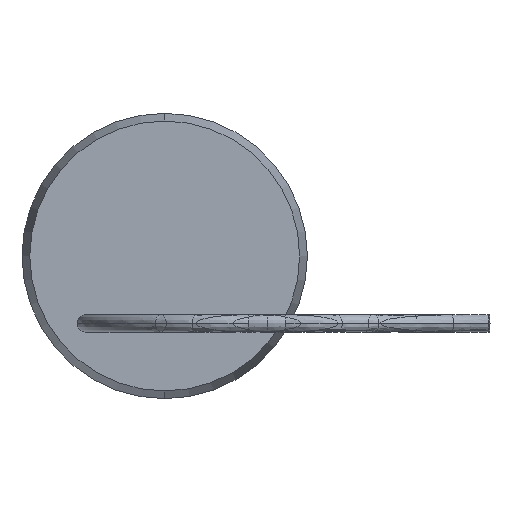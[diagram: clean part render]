
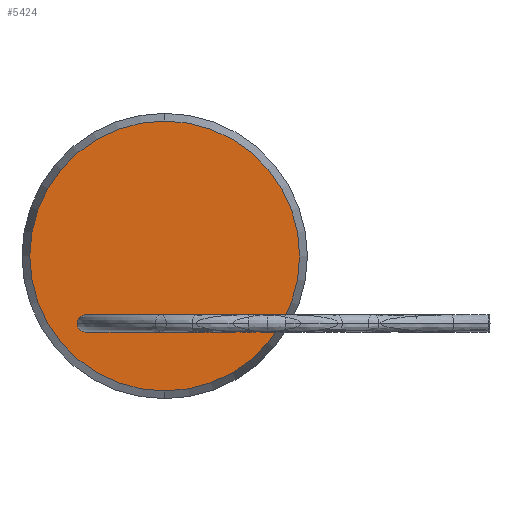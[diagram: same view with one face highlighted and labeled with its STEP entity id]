
A CAD part, left-side view. The second image highlights one B-rep face of the part: STEP entity #5424.
In plain terms, the highlighted planar face has unit normal (-1, 0, 0).
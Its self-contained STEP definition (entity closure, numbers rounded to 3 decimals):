
#92 = ORIENTED_EDGE ( 'NONE', *, *, #1112, .F. ) ;
#463 = ORIENTED_EDGE ( 'NONE', *, *, #4213, .F. ) ;
#479 = VERTEX_POINT ( 'NONE', #2529 ) ;
#483 = VERTEX_POINT ( 'NONE', #2566 ) ;
#713 = EDGE_LOOP ( 'NONE', ( #771, #853 ) ) ;
#771 = ORIENTED_EDGE ( 'NONE', *, *, #8126, .F. ) ;
#853 = ORIENTED_EDGE ( 'NONE', *, *, #3769, .F. ) ;
#885 = EDGE_LOOP ( 'NONE', ( #927, #973 ) ) ;
#927 = ORIENTED_EDGE ( 'NONE', *, *, #3822, .F. ) ;
#973 = ORIENTED_EDGE ( 'NONE', *, *, #1720, .F. ) ;
#991 = EDGE_CURVE ( 'NONE', #479, #483, #5478, .T. ) ;
#1112 = EDGE_CURVE ( 'NONE', #1141, #4000, #6158, .T. ) ;
#1141 = VERTEX_POINT ( 'NONE', #6317 ) ;
#1720 = EDGE_CURVE ( 'NONE', #2689, #4035, #2703, .T. ) ;
#2529 = CARTESIAN_POINT ( 'NONE',  ( 0., -2.54, -5.25 ) ) ;
#2566 = CARTESIAN_POINT ( 'NONE',  ( 0., -2.54, -4.05 ) ) ;
#2689 = VERTEX_POINT ( 'NONE', #4515 ) ;
#2703 = CIRCLE ( 'NONE', #2704, 0.6 ) ;
#2704 = AXIS2_PLACEMENT_3D ( 'NONE', #2705, #2706, #2708 ) ;
#2705 = CARTESIAN_POINT ( 'NONE',  ( 0., 0., -4.65 ) ) ;
#2706 = DIRECTION ( 'NONE',  ( -1., 0., 0. ) ) ;
#2708 = DIRECTION ( 'NONE',  ( 0., 0., 1. ) ) ;
#3769 = EDGE_CURVE ( 'NONE', #6852, #6675, #5295, .T. ) ;
#3822 = EDGE_CURVE ( 'NONE', #4035, #2689, #5350, .T. ) ;
#4000 = VERTEX_POINT ( 'NONE', #5477 ) ;
#4035 = VERTEX_POINT ( 'NONE', #5498 ) ;
#4213 = EDGE_CURVE ( 'NONE', #4000, #1141, #5611, .T. ) ;
#4515 = CARTESIAN_POINT ( 'NONE',  ( 0., 0., -5.25 ) ) ;
#5065 = CIRCLE ( 'NONE', #5066, 0.6 ) ;
#5066 = AXIS2_PLACEMENT_3D ( 'NONE', #5067, #5068, #5069 ) ;
#5067 = CARTESIAN_POINT ( 'NONE',  ( 0., 2.54, -4.65 ) ) ;
#5068 = DIRECTION ( 'NONE',  ( -1., 0., 0. ) ) ;
#5069 = DIRECTION ( 'NONE',  ( 0., 0., 1. ) ) ;
#5295 = CIRCLE ( 'NONE', #5297, 0.6 ) ;
#5297 = AXIS2_PLACEMENT_3D ( 'NONE', #5298, #5299, #5300 ) ;
#5298 = CARTESIAN_POINT ( 'NONE',  ( 0., 2.54, -4.65 ) ) ;
#5299 = DIRECTION ( 'NONE',  ( -1., 0., 0. ) ) ;
#5300 = DIRECTION ( 'NONE',  ( 0., 0., 1. ) ) ;
#5350 = CIRCLE ( 'NONE', #5351, 0.6 ) ;
#5351 = AXIS2_PLACEMENT_3D ( 'NONE', #5352, #5353, #5354 ) ;
#5352 = CARTESIAN_POINT ( 'NONE',  ( 0., 0., -4.65 ) ) ;
#5353 = DIRECTION ( 'NONE',  ( -1., 0., 0. ) ) ;
#5354 = DIRECTION ( 'NONE',  ( 0., 0., 1. ) ) ;
#5424 = ADVANCED_FACE ( 'NONE', ( #6419, #6420, #6421, #6422 ), #6423, .F. ) ;
#5477 = CARTESIAN_POINT ( 'NONE',  ( 0., 0., 9.314 ) ) ;
#5478 = CIRCLE ( 'NONE', #5479, 0.6 ) ;
#5479 = AXIS2_PLACEMENT_3D ( 'NONE', #5480, #5481, #5482 ) ;
#5480 = CARTESIAN_POINT ( 'NONE',  ( 0., -2.54, -4.65 ) ) ;
#5481 = DIRECTION ( 'NONE',  ( 1., 0., 0. ) ) ;
#5482 = DIRECTION ( 'NONE',  ( 0., 0., 1. ) ) ;
#5498 = CARTESIAN_POINT ( 'NONE',  ( 0., 0., -4.05 ) ) ;
#5611 = CIRCLE ( 'NONE', #5612, 9.314 ) ;
#5612 = AXIS2_PLACEMENT_3D ( 'NONE', #5613, #5614, #5615 ) ;
#5613 = CARTESIAN_POINT ( 'NONE',  ( 0., 0., 0. ) ) ;
#5614 = DIRECTION ( 'NONE',  ( 1., 0., 0. ) ) ;
#5615 = DIRECTION ( 'NONE',  ( 0., 0., -1. ) ) ;
#6158 = CIRCLE ( 'NONE', #6159, 9.314 ) ;
#6159 = AXIS2_PLACEMENT_3D ( 'NONE', #6160, #6161, #6162 ) ;
#6160 = CARTESIAN_POINT ( 'NONE',  ( 0., 0., 0. ) ) ;
#6161 = DIRECTION ( 'NONE',  ( 1., 0., 0. ) ) ;
#6162 = DIRECTION ( 'NONE',  ( 0., 0., -1. ) ) ;
#6257 = EDGE_LOOP ( 'NONE', ( #6715, #7550 ) ) ;
#6317 = CARTESIAN_POINT ( 'NONE',  ( 0., 0., -9.314 ) ) ;
#6419 = FACE_BOUND ( 'NONE', #713, .T. ) ;
#6420 = FACE_BOUND ( 'NONE', #885, .T. ) ;
#6421 = FACE_BOUND ( 'NONE', #6257, .T. ) ;
#6422 = FACE_OUTER_BOUND ( 'NONE', #7792, .T. ) ;
#6423 = PLANE ( 'NONE',  #6424 ) ;
#6424 = AXIS2_PLACEMENT_3D ( 'NONE', #6425, #6429, #6430 ) ;
#6425 = CARTESIAN_POINT ( 'NONE',  ( 0., 9.687, 9.687 ) ) ;
#6429 = DIRECTION ( 'NONE',  ( 1., 0., 0. ) ) ;
#6430 = DIRECTION ( 'NONE',  ( 0., -1., 0. ) ) ;
#6675 = VERTEX_POINT ( 'NONE', #7213 ) ;
#6715 = ORIENTED_EDGE ( 'NONE', *, *, #7069, .T. ) ;
#6852 = VERTEX_POINT ( 'NONE', #7335 ) ;
#7069 = EDGE_CURVE ( 'NONE', #483, #479, #7541, .T. ) ;
#7213 = CARTESIAN_POINT ( 'NONE',  ( 0., 2.54, -4.05 ) ) ;
#7335 = CARTESIAN_POINT ( 'NONE',  ( 0., 2.54, -5.25 ) ) ;
#7541 = CIRCLE ( 'NONE', #7542, 0.6 ) ;
#7542 = AXIS2_PLACEMENT_3D ( 'NONE', #7543, #7544, #7545 ) ;
#7543 = CARTESIAN_POINT ( 'NONE',  ( 0., -2.54, -4.65 ) ) ;
#7544 = DIRECTION ( 'NONE',  ( 1., 0., 0. ) ) ;
#7545 = DIRECTION ( 'NONE',  ( 0., 0., 1. ) ) ;
#7550 = ORIENTED_EDGE ( 'NONE', *, *, #991, .T. ) ;
#7792 = EDGE_LOOP ( 'NONE', ( #92, #463 ) ) ;
#8126 = EDGE_CURVE ( 'NONE', #6675, #6852, #5065, .T. ) ;
